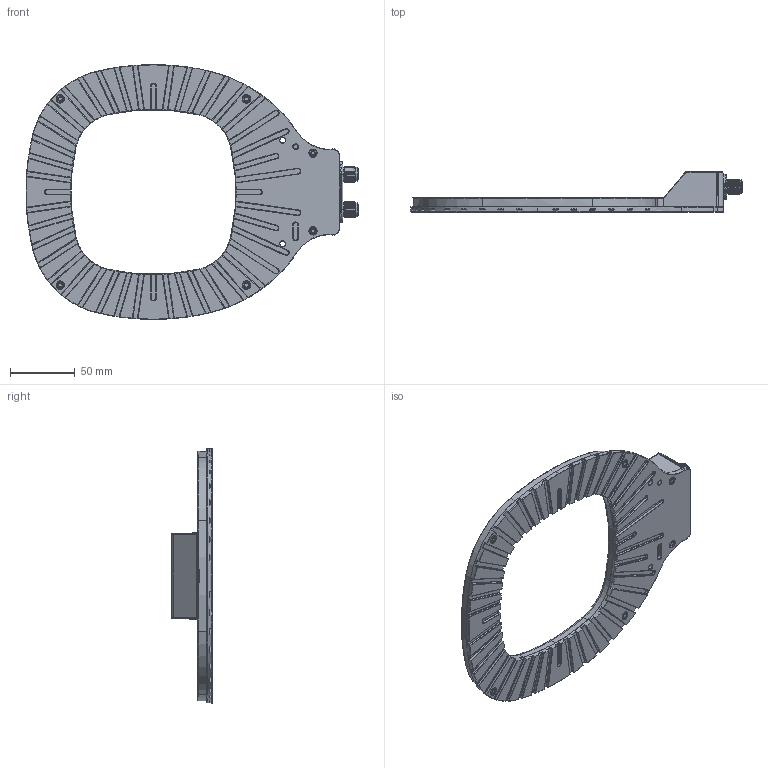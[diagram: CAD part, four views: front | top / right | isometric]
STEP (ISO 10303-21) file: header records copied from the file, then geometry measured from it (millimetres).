
FILE_DESCRIPTION (( 'STEP AP214' ), '1' );
FILE_NAME ('MR-130-R.STEP', '2017-02-07T12:17:10', ( '' ), ( '' ), 'SwSTEP 2.0', 'SolidWorks 2014', '' );
FILE_SCHEMA (( 'AUTOMOTIVE_DESIGN' ));
Length unit declared in the file: millimetre
Products named in the file (1): MR-130-R
Bounding box: 256.72 x 31 x 196.96 mm (x, y, z)
Volume: 274103 mm3; surface area: 71512.3 mm2
Topology: 6 solids, 6 shells, 2054 faces, 4955 edges, 2762 vertices
Faces by surface type: cylinder 624, plane 427, torus 405, bspline 357, sphere 152, cone 89
Entity records: 72244 total; most frequent: CARTESIAN_POINT 27505, ORIENTED_EDGE 9430, DIRECTION 9422, EDGE_CURVE 4715, AXIS2_PLACEMENT_3D 3892, VERTEX_POINT 2762, CIRCLE 2194, EDGE_LOOP 2149
